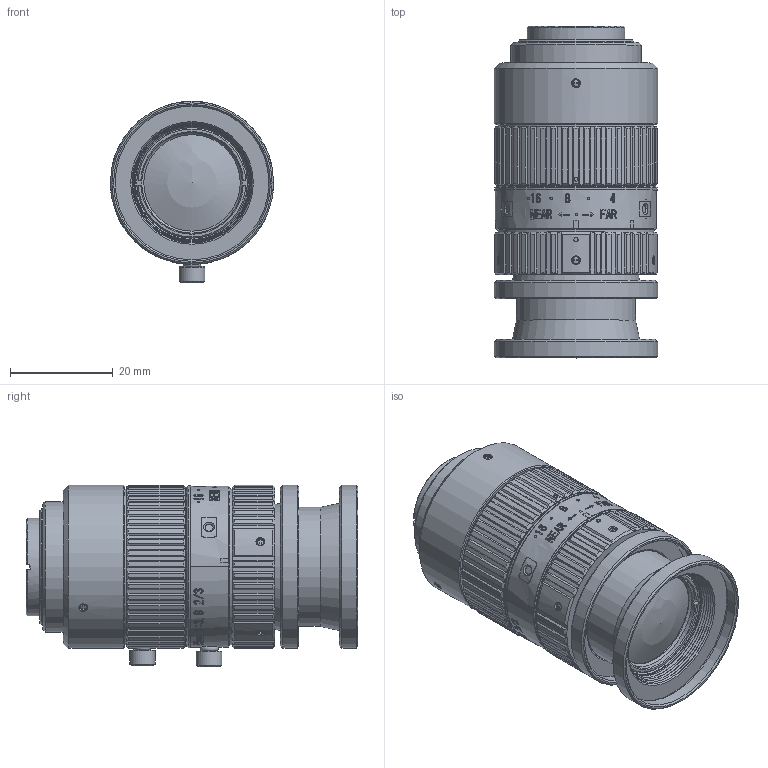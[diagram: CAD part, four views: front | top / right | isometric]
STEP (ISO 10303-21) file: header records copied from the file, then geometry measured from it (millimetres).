
FILE_DESCRIPTION(/* description */ ('Unknown'),/* implementation_level */ '2;1');
FILE_NAME(/* name */ 'M7538-MPX_Outline',/* time_stamp */ '2023-12-21T10:37:24+09:00',/* author */ ('Unknown'),/* organization */ ('Unknown'),/* preprocessor_version */ 'ST-DEVELOPER v18.102',/* originating_system */ 'Solid Edge',/* authorisation */ 'Unknown');
FILE_SCHEMA (('AUTOMOTIVE_DESIGN {1 0 10303 214 3 1 1}'));
Length unit declared in the file: millimetre
Products named in the file (6): M7538-MPX_Outline; Name-Seal; M7538MPX-Lens unit_inf; M7538MPX-Lens unit_mod; Lock_screw; M7538MPX_Barrel-Unit
Assembly tree (6 placements, depth 2):
  M7538-MPX_Outline
    Name-Seal
    M7538MPX-Lens unit_inf
    M7538MPX-Lens unit_mod
    Lock_screw  x2
    M7538MPX_Barrel-Unit
Bounding box: 31.8 x 64.65 x 35.35 mm (x, y, z)
Volume: 62123.9 mm3; surface area: 22850 mm2
Topology: 20 solids, 21 shells, 1209 faces, 3144 edges, 2076 vertices
Faces by surface type: plane 658, cylinder 252, bspline 169, cone 108, sphere 20, torus 2
Full cylindrical faces by diameter (mm): 0.8 x2, 1.321 x8, 1.5 x2, 1.567 x3, 2 x3, 2.4 x1, 2.8 x1, 3 x1, 4.5 x1, 4.999 x2, 12.05 x2, 18.8 x2, 19 x2, 19.2 x3, 19.459 x1, 19.6 x2, 20 x2, 20.1 x1, 20.8 x4, 21 x1, 21.5 x2, 22.235 x2, 22.6 x1, 22.65 x1, 23.2 x2, 25.4 x1, 25.5 x1, 29.959 x2, 30.4 x3, 30.5 x2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
Entity records: 52646 total; most frequent: CARTESIAN_POINT 17666, ORIENTED_EDGE 5804, DIRECTION 4727, EDGE_CURVE 2902, VERTEX_POINT 2003, AXIS2_PLACEMENT_3D 1793, FACE_BOUND 1461, EDGE_LOOP 1460
